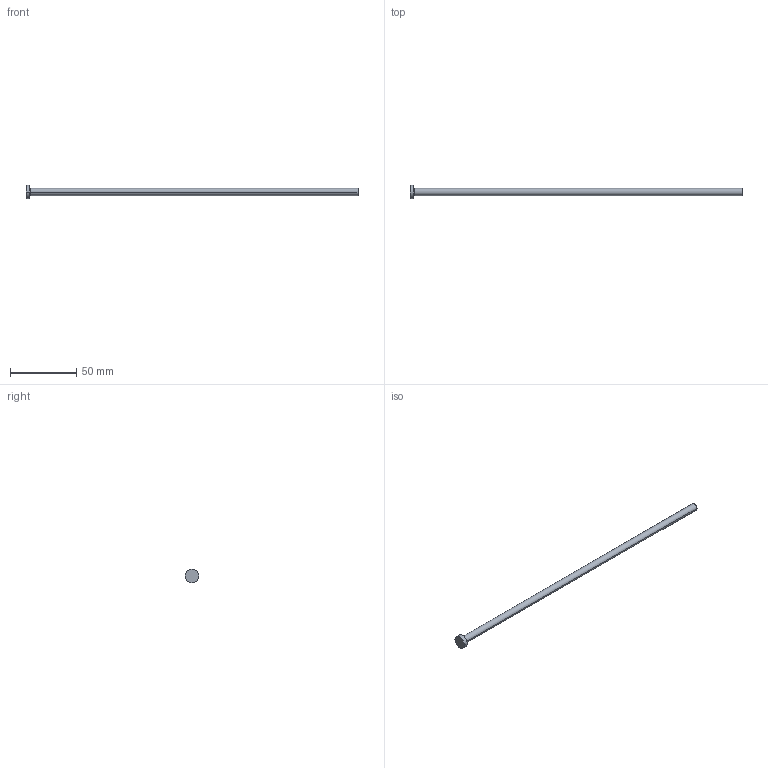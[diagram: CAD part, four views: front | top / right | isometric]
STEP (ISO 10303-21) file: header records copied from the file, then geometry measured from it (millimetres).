
FILE_DESCRIPTION (( 'STEP AP214' ), '1' );
FILE_NAME ('A-5,5x250.STEP', '2020-05-29T15:32:05', ( 'August' ), ( '' ), 'SwSTEP 2.0', 'SolidWorks 2018', '' );
FILE_SCHEMA (( 'AUTOMOTIVE_DESIGN' ));
Length unit declared in the file: millimetre
Products named in the file (1): A-5,5x250
Bounding box: 250 x 10 x 10 mm (x, y, z)
Volume: 6104.3 mm3; surface area: 4517 mm2
Topology: 1 solids, 1 shells, 9 faces, 16 edges, 10 vertices
Faces by surface type: cylinder 4, plane 3, torus 2
Entity records: 260 total; most frequent: DIRECTION 48, CARTESIAN_POINT 36, ORIENTED_EDGE 32, AXIS2_PLACEMENT_3D 22, EDGE_CURVE 16, CIRCLE 12, VERTEX_POINT 10, EDGE_LOOP 10
